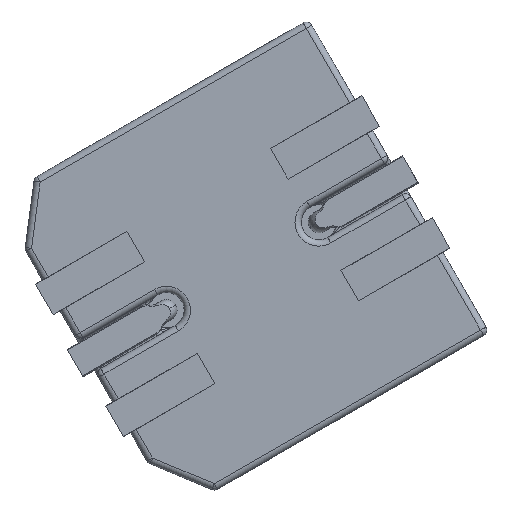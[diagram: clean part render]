
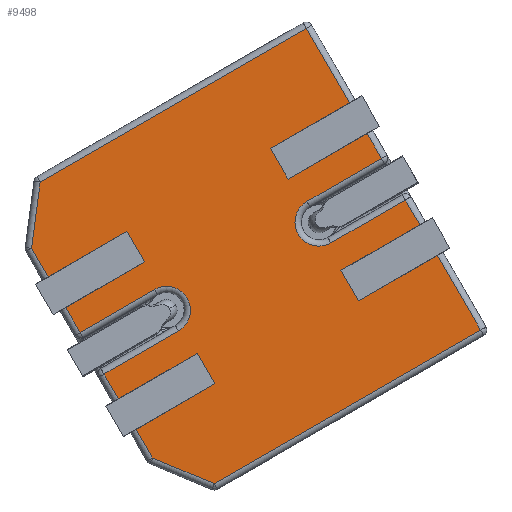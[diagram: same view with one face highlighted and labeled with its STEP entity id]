
A CAD part, left-side view. The second image highlights one B-rep face of the part: STEP entity #9498.
In plain terms, the highlighted planar face has unit normal (-1, 0, 0) as drawn and (0, -1, 0) by its records, which use the part's own axes.
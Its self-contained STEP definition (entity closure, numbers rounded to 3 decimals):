
#6672=DIRECTION('',(0.,0.,-1.));
#6673=VECTOR('',#6672,2.59);
#6674=CARTESIAN_POINT('',(1.5,0.,4.945));
#6675=LINE('',#6674,#6673);
#6676=DIRECTION('',(1.,0.,0.));
#6677=VECTOR('',#6676,1.);
#6678=CARTESIAN_POINT('',(1.5,0.,2.355));
#6679=LINE('',#6678,#6677);
#6680=DIRECTION('',(0.,0.,-1.));
#6681=VECTOR('',#6680,2.59);
#6682=CARTESIAN_POINT('',(2.5,0.,4.945));
#6683=LINE('',#6682,#6681);
#6684=DIRECTION('',(-1.,0.,0.));
#6685=VECTOR('',#6684,0.939);
#6686=CARTESIAN_POINT('',(3.439,0.,4.945));
#6687=LINE('',#6686,#6685);
#6688=DIRECTION('',(-0.794,0.,0.609));
#6689=VECTOR('',#6688,1.904);
#6690=CARTESIAN_POINT('',(4.95,0.,3.786));
#6691=LINE('',#6690,#6689);
#6692=DIRECTION('',(0.,0.,1.));
#6693=VECTOR('',#6692,8.731);
#6694=CARTESIAN_POINT('',(4.95,0.,-4.945));
#6695=LINE('',#6694,#6693);
#6696=DIRECTION('',(1.,0.,0.));
#6697=VECTOR('',#6696,2.45);
#6698=CARTESIAN_POINT('',(2.5,0.,-4.945));
#6699=LINE('',#6698,#6697);
#6700=DIRECTION('',(0.,0.,1.));
#6701=VECTOR('',#6700,2.59);
#6702=CARTESIAN_POINT('',(2.5,0.,-4.945));
#6703=LINE('',#6702,#6701);
#6704=DIRECTION('',(-1.,0.,0.));
#6705=VECTOR('',#6704,1.);
#6706=CARTESIAN_POINT('',(2.5,0.,-2.355));
#6707=LINE('',#6706,#6705);
#6708=DIRECTION('',(0.,0.,1.));
#6709=VECTOR('',#6708,2.59);
#6710=CARTESIAN_POINT('',(1.5,0.,-4.945));
#6711=LINE('',#6710,#6709);
#6712=DIRECTION('',(1.,0.,0.));
#6713=VECTOR('',#6712,0.82);
#6714=CARTESIAN_POINT('',(0.68,0.,-4.945));
#6715=LINE('',#6714,#6713);
#6716=DIRECTION('',(0.,0.,-1.));
#6717=VECTOR('',#6716,2.445);
#6718=CARTESIAN_POINT('',(0.68,0.,-2.5));
#6719=LINE('',#6718,#6717);
#6720=DIRECTION('',(0.,0.,1.));
#6721=VECTOR('',#6720,2.445);
#6722=CARTESIAN_POINT('',(-0.68,0.,-4.945));
#6723=LINE('',#6722,#6721);
#6724=DIRECTION('',(1.,0.,0.));
#6725=VECTOR('',#6724,0.82);
#6726=CARTESIAN_POINT('',(-1.5,0.,-4.945));
#6727=LINE('',#6726,#6725);
#6728=DIRECTION('',(0.,0.,1.));
#6729=VECTOR('',#6728,2.59);
#6730=CARTESIAN_POINT('',(-1.5,0.,-4.945));
#6731=LINE('',#6730,#6729);
#6732=DIRECTION('',(-1.,0.,0.));
#6733=VECTOR('',#6732,1.);
#6734=CARTESIAN_POINT('',(-1.5,0.,-2.355));
#6735=LINE('',#6734,#6733);
#6736=DIRECTION('',(0.,0.,1.));
#6737=VECTOR('',#6736,2.59);
#6738=CARTESIAN_POINT('',(-2.5,0.,-4.945));
#6739=LINE('',#6738,#6737);
#6740=DIRECTION('',(1.,0.,0.));
#6741=VECTOR('',#6740,2.45);
#6742=CARTESIAN_POINT('',(-4.95,0.,-4.945));
#6743=LINE('',#6742,#6741);
#6744=DIRECTION('',(0.,0.,1.));
#6745=VECTOR('',#6744,8.731);
#6746=CARTESIAN_POINT('',(-4.95,0.,-4.945));
#6747=LINE('',#6746,#6745);
#6748=DIRECTION('',(-0.794,0.,-0.609));
#6749=VECTOR('',#6748,1.904);
#6750=CARTESIAN_POINT('',(-3.439,0.,4.945));
#6751=LINE('',#6750,#6749);
#6752=DIRECTION('',(-1.,0.,0.));
#6753=VECTOR('',#6752,0.939);
#6754=CARTESIAN_POINT('',(-2.5,0.,4.945));
#6755=LINE('',#6754,#6753);
#6756=DIRECTION('',(0.,0.,-1.));
#6757=VECTOR('',#6756,2.59);
#6758=CARTESIAN_POINT('',(-2.5,0.,4.945));
#6759=LINE('',#6758,#6757);
#6760=DIRECTION('',(1.,0.,0.));
#6761=VECTOR('',#6760,1.);
#6762=CARTESIAN_POINT('',(-2.5,0.,2.355));
#6763=LINE('',#6762,#6761);
#6764=DIRECTION('',(0.,0.,-1.));
#6765=VECTOR('',#6764,2.59);
#6766=CARTESIAN_POINT('',(-1.5,0.,4.945));
#6767=LINE('',#6766,#6765);
#6768=DIRECTION('',(-1.,0.,0.));
#6769=VECTOR('',#6768,0.82);
#6770=CARTESIAN_POINT('',(-0.68,0.,4.945));
#6771=LINE('',#6770,#6769);
#6772=DIRECTION('',(0.,0.,1.));
#6773=VECTOR('',#6772,2.445);
#6774=CARTESIAN_POINT('',(-0.68,0.,2.5));
#6775=LINE('',#6774,#6773);
#6776=DIRECTION('',(0.,0.,-1.));
#6777=VECTOR('',#6776,2.445);
#6778=CARTESIAN_POINT('',(0.68,0.,4.945));
#6779=LINE('',#6778,#6777);
#6780=DIRECTION('',(-1.,0.,0.));
#6781=VECTOR('',#6780,0.82);
#6782=CARTESIAN_POINT('',(1.5,0.,4.945));
#6783=LINE('',#6782,#6781);
#8732=CARTESIAN_POINT('',(0.,0.,2.5));
#8733=DIRECTION('',(0.,1.,0.));
#8734=DIRECTION('',(1.,0.,0.));
#8735=AXIS2_PLACEMENT_3D('',#8732,#8733,#8734);
#8909=CARTESIAN_POINT('',(0.,0.,-2.5));
#8910=DIRECTION('',(0.,1.,0.));
#8911=DIRECTION('',(-1.,0.,0.));
#8912=AXIS2_PLACEMENT_3D('',#8909,#8910,#8911);
#9083=CARTESIAN_POINT('',(4.95,0.,-4.945));
#9084=CARTESIAN_POINT('',(4.95,0.,3.786));
#9085=VERTEX_POINT('',#9083);
#9086=VERTEX_POINT('',#9084);
#9087=CARTESIAN_POINT('',(-4.95,0.,3.786));
#9089=VERTEX_POINT('',#9087);
#9092=CARTESIAN_POINT('',(-3.439,0.,4.945));
#9094=VERTEX_POINT('',#9092);
#9153=CARTESIAN_POINT('',(-0.68,0.,-2.5));
#9154=CARTESIAN_POINT('',(0.68,0.,-2.5));
#9155=VERTEX_POINT('',#9153);
#9156=VERTEX_POINT('',#9154);
#9163=CARTESIAN_POINT('',(0.68,0.,2.5));
#9164=VERTEX_POINT('',#9163);
#9165=CARTESIAN_POINT('',(-0.68,0.,2.5));
#9166=VERTEX_POINT('',#9165);
#9187=CARTESIAN_POINT('',(3.439,0.,4.945));
#9188=VERTEX_POINT('',#9187);
#9215=CARTESIAN_POINT('',(-0.68,0.,-4.945));
#9216=VERTEX_POINT('',#9215);
#9217=CARTESIAN_POINT('',(0.68,0.,-4.945));
#9218=VERTEX_POINT('',#9217);
#9221=CARTESIAN_POINT('',(0.68,0.,4.945));
#9222=VERTEX_POINT('',#9221);
#9223=CARTESIAN_POINT('',(-0.68,0.,4.945));
#9224=VERTEX_POINT('',#9223);
#9251=CARTESIAN_POINT('',(-4.95,0.,-4.945));
#9252=VERTEX_POINT('',#9251);
#9399=CARTESIAN_POINT('',(-2.5,0.,4.945));
#9400=VERTEX_POINT('',#9399);
#9401=CARTESIAN_POINT('',(-1.5,0.,4.945));
#9402=VERTEX_POINT('',#9401);
#9403=CARTESIAN_POINT('',(-1.5,0.,-4.945));
#9404=VERTEX_POINT('',#9403);
#9405=CARTESIAN_POINT('',(-2.5,0.,-4.945));
#9406=VERTEX_POINT('',#9405);
#9407=CARTESIAN_POINT('',(2.5,0.,-4.945));
#9408=VERTEX_POINT('',#9407);
#9409=CARTESIAN_POINT('',(1.5,0.,-4.945));
#9410=VERTEX_POINT('',#9409);
#9411=CARTESIAN_POINT('',(1.5,0.,4.945));
#9412=VERTEX_POINT('',#9411);
#9413=CARTESIAN_POINT('',(2.5,0.,4.945));
#9414=VERTEX_POINT('',#9413);
#9415=CARTESIAN_POINT('',(1.5,0.,2.355));
#9416=VERTEX_POINT('',#9415);
#9417=CARTESIAN_POINT('',(2.5,0.,2.355));
#9418=VERTEX_POINT('',#9417);
#9419=CARTESIAN_POINT('',(-2.5,0.,2.355));
#9420=VERTEX_POINT('',#9419);
#9421=CARTESIAN_POINT('',(-1.5,0.,2.355));
#9422=VERTEX_POINT('',#9421);
#9423=CARTESIAN_POINT('',(2.5,0.,-2.355));
#9424=VERTEX_POINT('',#9423);
#9425=CARTESIAN_POINT('',(1.5,0.,-2.355));
#9426=VERTEX_POINT('',#9425);
#9427=CARTESIAN_POINT('',(-1.5,0.,-2.355));
#9428=VERTEX_POINT('',#9427);
#9429=CARTESIAN_POINT('',(-2.5,0.,-2.355));
#9430=VERTEX_POINT('',#9429);
#9431=CARTESIAN_POINT('',(0.,0.,0.));
#9432=DIRECTION('',(0.,1.,0.));
#9433=DIRECTION('',(0.,0.,1.));
#9434=AXIS2_PLACEMENT_3D('',#9431,#9432,#9433);
#9435=PLANE('',#9434);
#9437=ORIENTED_EDGE('',*,*,#9436,.T.);
#9439=ORIENTED_EDGE('',*,*,#9438,.T.);
#9441=ORIENTED_EDGE('',*,*,#9440,.F.);
#9443=ORIENTED_EDGE('',*,*,#9442,.F.);
#9445=ORIENTED_EDGE('',*,*,#9444,.F.);
#9447=ORIENTED_EDGE('',*,*,#9446,.F.);
#9449=ORIENTED_EDGE('',*,*,#9448,.F.);
#9451=ORIENTED_EDGE('',*,*,#9450,.T.);
#9453=ORIENTED_EDGE('',*,*,#9452,.T.);
#9455=ORIENTED_EDGE('',*,*,#9454,.F.);
#9457=ORIENTED_EDGE('',*,*,#9456,.F.);
#9459=ORIENTED_EDGE('',*,*,#9458,.F.);
#9461=ORIENTED_EDGE('',*,*,#9460,.F.);
#9463=ORIENTED_EDGE('',*,*,#9462,.F.);
#9465=ORIENTED_EDGE('',*,*,#9464,.F.);
#9467=ORIENTED_EDGE('',*,*,#9466,.T.);
#9469=ORIENTED_EDGE('',*,*,#9468,.T.);
#9471=ORIENTED_EDGE('',*,*,#9470,.F.);
#9473=ORIENTED_EDGE('',*,*,#9472,.F.);
#9475=ORIENTED_EDGE('',*,*,#9474,.T.);
#9477=ORIENTED_EDGE('',*,*,#9476,.F.);
#9479=ORIENTED_EDGE('',*,*,#9478,.F.);
#9481=ORIENTED_EDGE('',*,*,#9480,.T.);
#9483=ORIENTED_EDGE('',*,*,#9482,.T.);
#9485=ORIENTED_EDGE('',*,*,#9484,.F.);
#9487=ORIENTED_EDGE('',*,*,#9486,.F.);
#9489=ORIENTED_EDGE('',*,*,#9488,.F.);
#9491=ORIENTED_EDGE('',*,*,#9490,.F.);
#9493=ORIENTED_EDGE('',*,*,#9492,.F.);
#9495=ORIENTED_EDGE('',*,*,#9494,.F.);
#9496=EDGE_LOOP('',(#9437,#9439,#9441,#9443,#9445,#9447,#9449,#9451,#9453,#9455,
#9457,#9459,#9461,#9463,#9465,#9467,#9469,#9471,#9473,#9475,#9477,#9479,#9481,
#9483,#9485,#9487,#9489,#9491,#9493,#9495));
#9497=FACE_OUTER_BOUND('',#9496,.F.);
#9498=ADVANCED_FACE('',(#9497),#9435,.F.);
#8736=CIRCLE('',#8735,0.68);
#8913=CIRCLE('',#8912,0.68);
#9436=EDGE_CURVE('',#9412,#9416,#6675,.T.);
#9438=EDGE_CURVE('',#9416,#9418,#6679,.T.);
#9440=EDGE_CURVE('',#9414,#9418,#6683,.T.);
#9442=EDGE_CURVE('',#9188,#9414,#6687,.T.);
#9444=EDGE_CURVE('',#9086,#9188,#6691,.T.);
#9446=EDGE_CURVE('',#9085,#9086,#6695,.T.);
#9448=EDGE_CURVE('',#9408,#9085,#6699,.T.);
#9450=EDGE_CURVE('',#9408,#9424,#6703,.T.);
#9452=EDGE_CURVE('',#9424,#9426,#6707,.T.);
#9454=EDGE_CURVE('',#9410,#9426,#6711,.T.);
#9456=EDGE_CURVE('',#9218,#9410,#6715,.T.);
#9458=EDGE_CURVE('',#9156,#9218,#6719,.T.);
#9460=EDGE_CURVE('',#9155,#9156,#8913,.T.);
#9462=EDGE_CURVE('',#9216,#9155,#6723,.T.);
#9464=EDGE_CURVE('',#9404,#9216,#6727,.T.);
#9466=EDGE_CURVE('',#9404,#9428,#6731,.T.);
#9468=EDGE_CURVE('',#9428,#9430,#6735,.T.);
#9470=EDGE_CURVE('',#9406,#9430,#6739,.T.);
#9472=EDGE_CURVE('',#9252,#9406,#6743,.T.);
#9474=EDGE_CURVE('',#9252,#9089,#6747,.T.);
#9476=EDGE_CURVE('',#9094,#9089,#6751,.T.);
#9478=EDGE_CURVE('',#9400,#9094,#6755,.T.);
#9480=EDGE_CURVE('',#9400,#9420,#6759,.T.);
#9482=EDGE_CURVE('',#9420,#9422,#6763,.T.);
#9484=EDGE_CURVE('',#9402,#9422,#6767,.T.);
#9486=EDGE_CURVE('',#9224,#9402,#6771,.T.);
#9488=EDGE_CURVE('',#9166,#9224,#6775,.T.);
#9490=EDGE_CURVE('',#9164,#9166,#8736,.T.);
#9492=EDGE_CURVE('',#9222,#9164,#6779,.T.);
#9494=EDGE_CURVE('',#9412,#9222,#6783,.T.);
